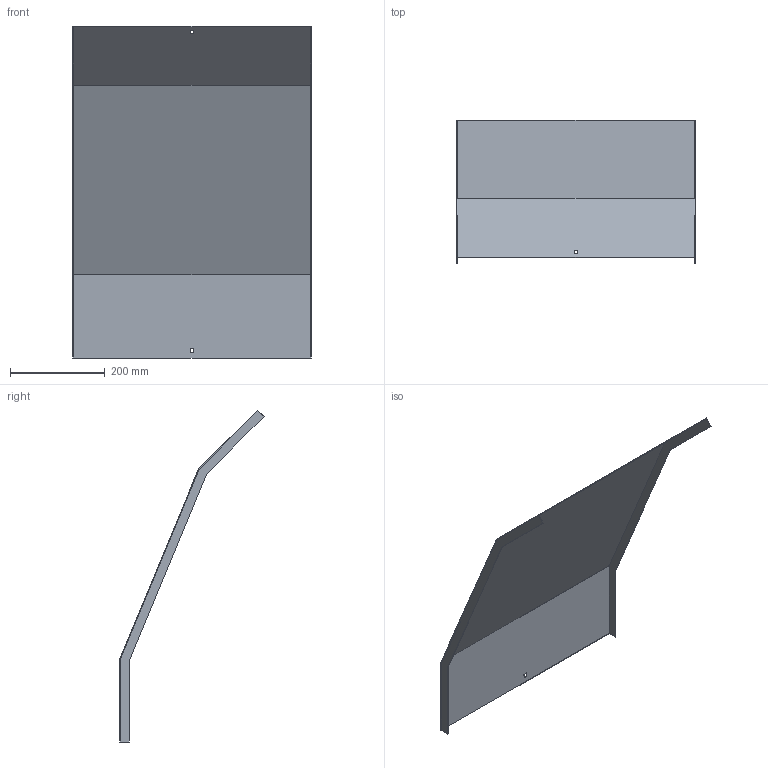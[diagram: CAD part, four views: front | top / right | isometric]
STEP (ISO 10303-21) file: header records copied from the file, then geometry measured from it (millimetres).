
FILE_DESCRIPTION (( 'STEP AP214' ), '1' );
FILE_NAME ('34N5J500.step', '2025-02-21T10:33:49', ( '' ), ( '' ), 'SwSTEP 2.0', 'SolidWorks 2023', '' );
FILE_SCHEMA (( 'AUTOMOTIVE_DESIGN' ));
Length unit declared in the file: millimetre
Products named in the file (1): 34N5J500
Bounding box: 503 x 304.65 x 701.34 mm (x, y, z)
Volume: 635489.1 mm3; surface area: 851343.6 mm2
Topology: 1 solids, 1 shells, 26 faces, 72 edges, 48 vertices
Faces by surface type: plane 26
Entity records: 847 total; most frequent: CARTESIAN_POINT 147, ORIENTED_EDGE 144, DIRECTION 126, VECTOR 72, EDGE_CURVE 72, LINE 72, VERTEX_POINT 48, EDGE_LOOP 30
